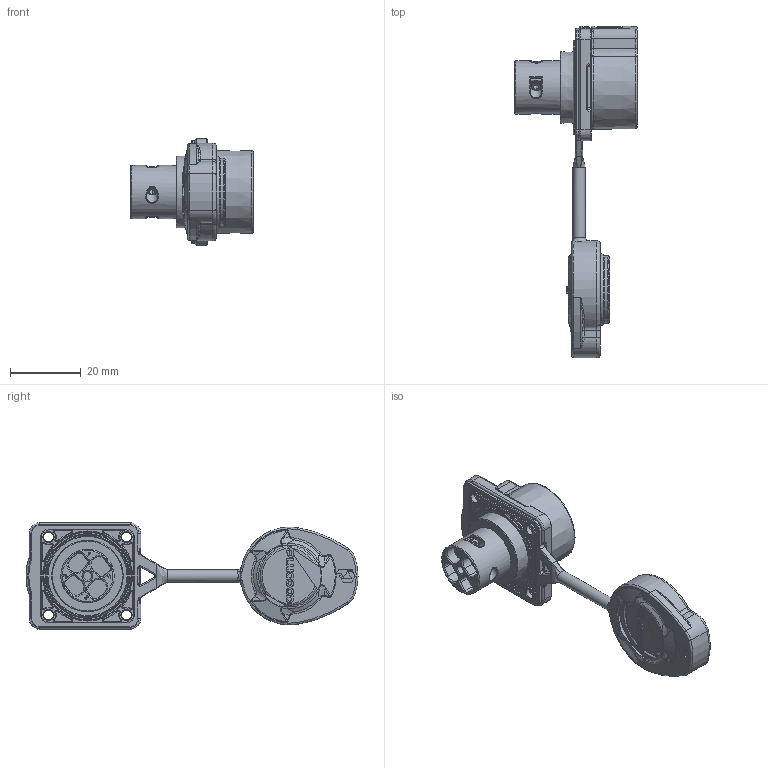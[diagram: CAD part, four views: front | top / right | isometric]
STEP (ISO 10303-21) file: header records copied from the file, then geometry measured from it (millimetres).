
FILE_DESCRIPTION (( 'STEP AP203' ), '1' );
FILE_NAME ('PLG20 4芯锁螺丝四孔插座.STEP', '2025-03-20T06:28:17', ( '' ), ( '' ), 'SwSTEP 2.0', 'SolidWorks 2024', '' );
FILE_SCHEMA (( 'CONFIG_CONTROL_DESIGN' ));
Length unit declared in the file: millimetre
Products named in the file (1): PLG20 4芯锁螺丝四孔插座
Bounding box: 34.5 x 93.64 x 30 mm (x, y, z)
Volume: 14625.7 mm3; surface area: 12963 mm2
Topology: 9 solids, 29 shells, 1576 faces, 3911 edges, 2437 vertices
Faces by surface type: plane 456, bspline 411, cylinder 380, torus 240, cone 79, sphere 10
Full cylindrical faces by diameter (mm): 1.061 x1, 2.088 x1, 2.5 x1, 2.8 x4, 3 x4, 3.2 x2, 3.3 x4, 3.5 x1, 4.15 x4, 4.2 x4, 6 x4, 15 x1, 16.5 x1, 19.1 x4, 22.3 x1, 23.5 x1, 25 x1
Entity records: 88262 total; most frequent: CARTESIAN_POINT 54903, ORIENTED_EDGE 7538, DIRECTION 5878, EDGE_CURVE 3769, VERTEX_POINT 2399, AXIS2_PLACEMENT_3D 2288, EDGE_LOOP 1756, FACE_OUTER_BOUND 1638
